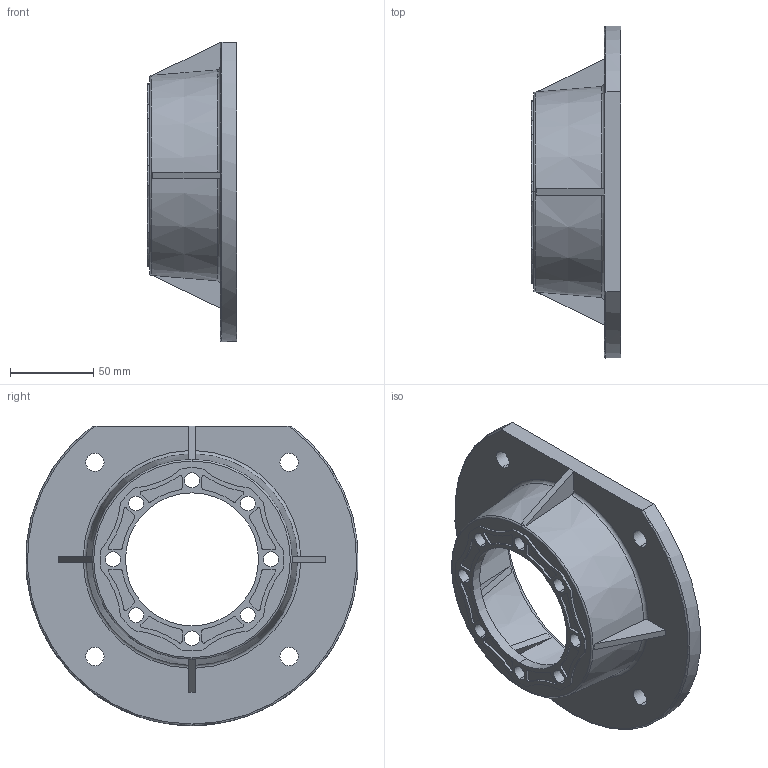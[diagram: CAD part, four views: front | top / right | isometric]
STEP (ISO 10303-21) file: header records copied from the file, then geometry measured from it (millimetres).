
FILE_DESCRIPTION (( 'STEP AP203' ), '1' );
FILE_NAME ('FCN63-FD.STEP', '2020-11-17T02:34:10', ( '' ), ( '' ), 'SwSTEP 2.0', 'SolidWorks 2016', '' );
FILE_SCHEMA (( 'CONFIG_CONTROL_DESIGN' ));
Length unit declared in the file: millimetre
Products named in the file (1): FCN63-FD
Bounding box: 54 x 199.57 x 180 mm (x, y, z)
Volume: 222939.7 mm3; surface area: 107293.6 mm2
Topology: 1 solids, 1 shells, 689 faces, 1693 edges, 1053 vertices
Faces by surface type: cylinder 327, plane 206, torus 152, cone 4
Entity records: 21596 total; most frequent: CARTESIAN_POINT 5035, DIRECTION 3600, ORIENTED_EDGE 3386, EDGE_CURVE 1693, AXIS2_PLACEMENT_3D 1424, VERTEX_POINT 1053, EDGE_LOOP 762, VECTOR 752
